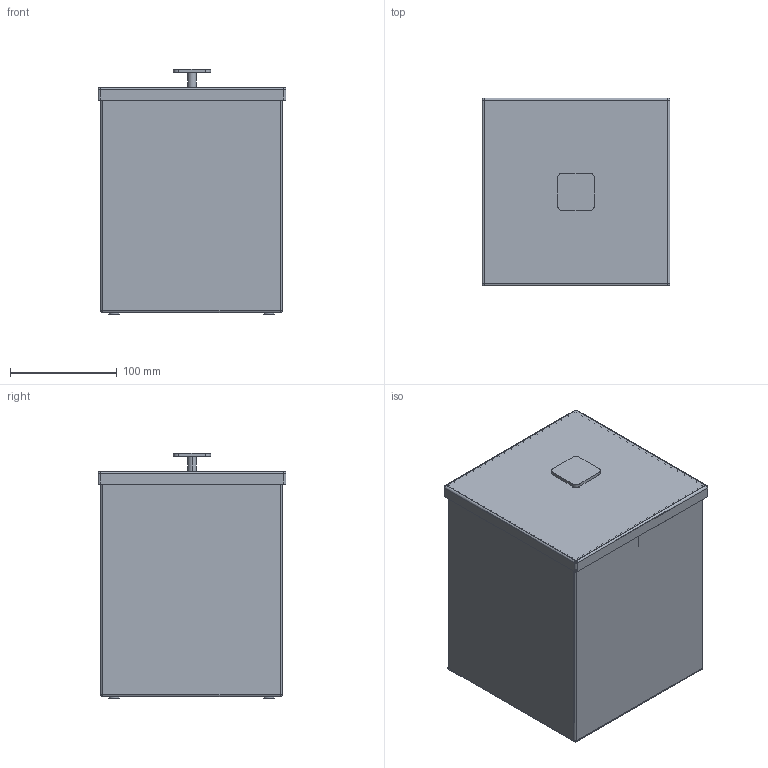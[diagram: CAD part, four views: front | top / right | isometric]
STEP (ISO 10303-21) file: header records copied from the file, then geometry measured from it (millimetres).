
FILE_DESCRIPTION (( 'STEP AP203' ), '1' );
FILE_NAME ('Kosz na œmieci z pokrywk¹.STEP', '2022-04-15T08:34:31', ( '' ), ( '' ), 'SwSTEP 2.0', 'SolidWorks 2021', '' );
FILE_SCHEMA (( 'CONFIG_CONTROL_DESIGN' ));
Length unit declared in the file: millimetre
Products named in the file (4): Kosz na œmieci z pokrywk¹ - 1; Kosz na œmieci z pokrywk¹; Kosz na œmieci z pokrywk¹ - 2; stopka gumowa 10mm_7mm
Assembly tree (6 placements, depth 2):
  Kosz na œmieci z pokrywk¹
    Kosz na œmieci z pokrywk¹ - 1
    Kosz na œmieci z pokrywk¹ - 2
    stopka gumowa 10mm_7mm  x4
Bounding box: 176 x 176 x 230 mm (x, y, z)
Volume: 229841.1 mm3; surface area: 444795.4 mm2
Topology: 6 solids, 6 shells, 150 faces, 350 edges, 204 vertices
Faces by surface type: cylinder 70, plane 56, sphere 16, torus 8
Entity records: 4014 total; most frequent: DIRECTION 670, CARTESIAN_POINT 592, ORIENTED_EDGE 572, EDGE_CURVE 286, AXIS2_PLACEMENT_3D 252, VERTEX_POINT 174, VECTOR 166, LINE 166
